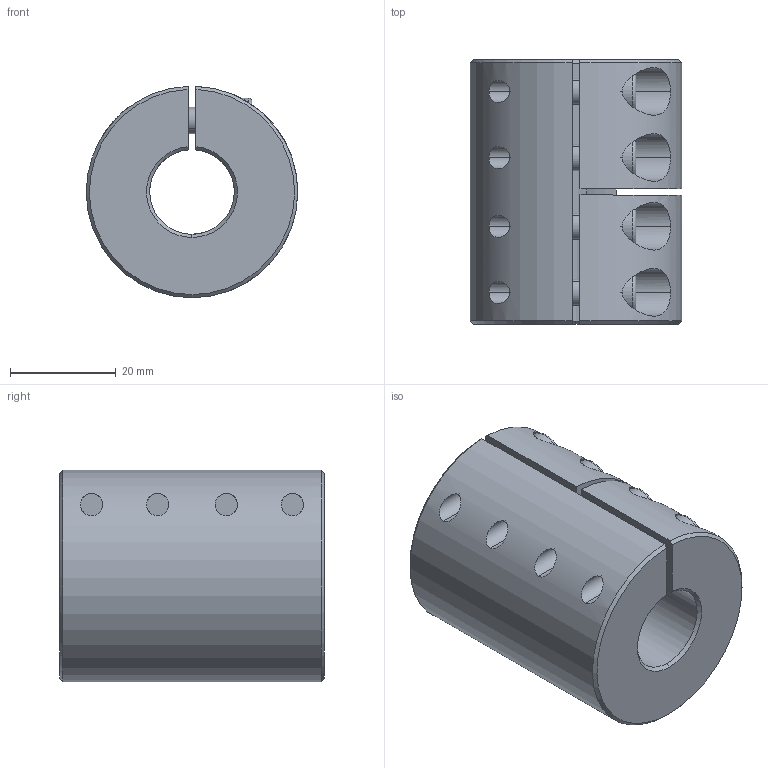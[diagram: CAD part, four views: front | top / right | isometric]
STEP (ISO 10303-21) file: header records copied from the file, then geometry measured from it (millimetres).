
FILE_DESCRIPTION (( 'STEP AP214' ), '1' );
FILE_NAME ('LL-B-D40L50-16-16½¨Ä£.STEP', '2022-07-22T00:25:52', ( '' ), ( '' ), 'SwSTEP 2.0', 'SolidWorks 2022', '' );
FILE_SCHEMA (( 'AUTOMOTIVE_DESIGN' ));
Length unit declared in the file: millimetre
Products named in the file (1): LL-B-D40L50-16-16膘耀
Bounding box: 40 x 50 x 39.99 mm (x, y, z)
Volume: 49842.9 mm3; surface area: 15306.8 mm2
Topology: 1 solids, 1 shells, 173 faces, 436 edges, 273 vertices
Faces by surface type: plane 83, cylinder 68, cone 14, torus 8
Entity records: 5707 total; most frequent: CARTESIAN_POINT 1459, DIRECTION 923, ORIENTED_EDGE 856, EDGE_CURVE 428, AXIS2_PLACEMENT_3D 361, VERTEX_POINT 273, EDGE_LOOP 205, LINE 201
